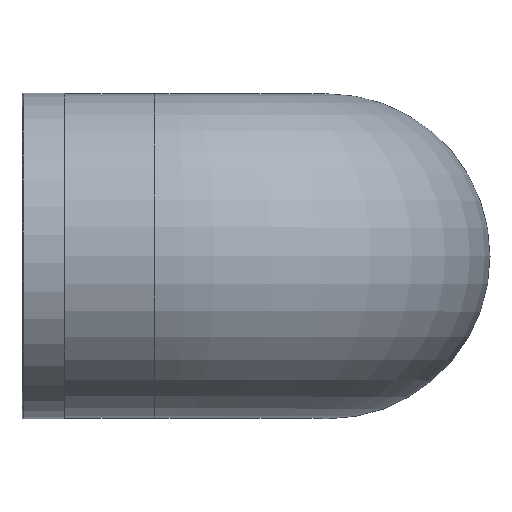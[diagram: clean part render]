
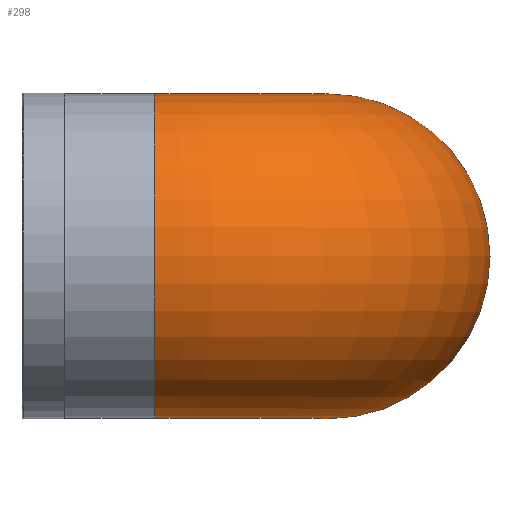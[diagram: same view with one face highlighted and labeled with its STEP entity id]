
A CAD part, top view. The second image highlights one B-rep face of the part: STEP entity #298.
In plain terms, the highlighted toroidal (fillet/blend) face has major radius 32.5 mm and minor radius 30.5 mm.
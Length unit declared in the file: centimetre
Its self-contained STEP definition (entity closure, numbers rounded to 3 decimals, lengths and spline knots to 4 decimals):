
#38=TOROIDAL_SURFACE('',#331,3.25,3.05);
#56=FACE_BOUND('',#110,.T.);
#77=FACE_OUTER_BOUND('',#109,.T.);
#109=EDGE_LOOP('',(#240));
#110=EDGE_LOOP('',(#241));
#131=CIRCLE('',#330,3.05);
#132=CIRCLE('',#332,3.05);
#156=VERTEX_POINT('',#3802);
#157=VERTEX_POINT('',#3805);
#187=EDGE_CURVE('',#156,#156,#131,.T.);
#188=EDGE_CURVE('',#157,#157,#132,.T.);
#240=ORIENTED_EDGE('',*,*,#187,.F.);
#241=ORIENTED_EDGE('',*,*,#188,.T.);
#298=ADVANCED_FACE('',(#77,#56),#38,.T.);
#330=AXIS2_PLACEMENT_3D('',#3803,#394,#395);
#331=AXIS2_PLACEMENT_3D('',#3804,#396,#397);
#332=AXIS2_PLACEMENT_3D('',#3806,#398,#399);
#394=DIRECTION('center_axis',(-1.,0.,0.));
#395=DIRECTION('ref_axis',(0.,0.,-1.));
#396=DIRECTION('center_axis',(0.,-1.,0.));
#397=DIRECTION('ref_axis',(0.,0.,-1.));
#398=DIRECTION('center_axis',(0.,0.,1.));
#399=DIRECTION('ref_axis',(-1.,0.,0.));
#3802=CARTESIAN_POINT('',(-2.6578,0.,7.025));
#3803=CARTESIAN_POINT('Origin',(-2.6578,0.,3.975));
#3804=CARTESIAN_POINT('Origin',(-2.6578,0.,0.725));
#3805=CARTESIAN_POINT('',(3.6422,0.,0.725));
#3806=CARTESIAN_POINT('Origin',(0.5922,0.,0.725));
